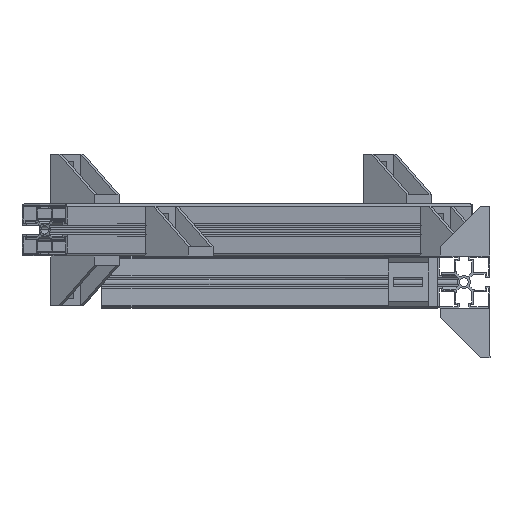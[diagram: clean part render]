
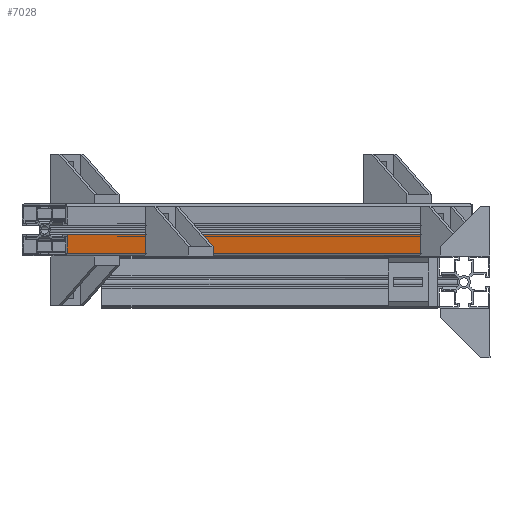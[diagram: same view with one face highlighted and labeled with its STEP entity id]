
A CAD part, left-side view. The second image highlights one B-rep face of the part: STEP entity #7028.
In plain terms, the highlighted planar face has unit normal (-0.5, -0.866, 0).
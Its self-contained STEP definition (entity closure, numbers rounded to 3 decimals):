
#573 = ORIENTED_EDGE ( 'NONE', *, *, #19659, .T. ) ;
#1615 = CARTESIAN_POINT ( 'NONE',  ( 266.159, -66.501, 18.349 ) ) ;
#1622 = PLANE ( 'NONE',  #11766 ) ;
#1624 = DIRECTION ( 'NONE',  ( 0.5, 0.866, 0. ) ) ;
#1625 = DIRECTION ( 'NONE',  ( -0.866, 0.5, 0. ) ) ;
#2837 = EDGE_LOOP ( 'NONE', ( #573, #20392, #20393, #20394 ) ) ;
#5247 = VERTEX_POINT ( 'NONE', #6389 ) ;
#5249 = VERTEX_POINT ( 'NONE', #6391 ) ;
#5351 = VERTEX_POINT ( 'NONE', #6493 ) ;
#5506 = VERTEX_POINT ( 'NONE', #5743 ) ;
#5743 = CARTESIAN_POINT ( 'NONE',  ( 266.159, -66.501, 2.5 ) ) ;
#6389 = CARTESIAN_POINT ( 'NONE',  ( -340.059, 283.499, 2.5 ) ) ;
#6391 = CARTESIAN_POINT ( 'NONE',  ( 266.159, -66.501, 18.349 ) ) ;
#6493 = CARTESIAN_POINT ( 'NONE',  ( -340.059, 283.499, 18.349 ) ) ;
#7028 = ADVANCED_FACE ( 'NONE', ( #14827 ), #1622, .F. ) ;
#8936 = DIRECTION ( 'NONE',  ( 0., 0., -1. ) ) ;
#8942 = CARTESIAN_POINT ( 'NONE',  ( 266.159, -66.501, 18.349 ) ) ;
#8946 = CARTESIAN_POINT ( 'NONE',  ( 266.159, -66.501, 2.5 ) ) ;
#8947 = DIRECTION ( 'NONE',  ( -0.866, 0.5, 0. ) ) ;
#8948 = CARTESIAN_POINT ( 'NONE',  ( -340.059, 283.499, 18.349 ) ) ;
#8950 = DIRECTION ( 'NONE',  ( 0., 0., -1. ) ) ;
#8952 = CARTESIAN_POINT ( 'NONE',  ( 266.159, -66.501, 18.349 ) ) ;
#8953 = DIRECTION ( 'NONE',  ( -0.866, 0.5, 0. ) ) ;
#11766 = AXIS2_PLACEMENT_3D ( 'NONE', #1615, #1624, #1625 ) ;
#14827 = FACE_OUTER_BOUND ( 'NONE', #2837, .T. ) ;
#17567 = LINE ( 'NONE', #8942, #17574 ) ;
#17573 = LINE ( 'NONE', #8946, #17576 ) ;
#17574 = VECTOR ( 'NONE', #8936, 1000. ) ;
#17575 = LINE ( 'NONE', #8948, #17578 ) ;
#17576 = VECTOR ( 'NONE', #8947, 1000. ) ;
#17578 = VECTOR ( 'NONE', #8950, 1000. ) ;
#17579 = LINE ( 'NONE', #8952, #17582 ) ;
#17582 = VECTOR ( 'NONE', #8953, 1000. ) ;
#19657 = EDGE_CURVE ( 'NONE', #5249, #5506, #17567, .T. ) ;
#19658 = EDGE_CURVE ( 'NONE', #5506, #5247, #17573, .T. ) ;
#19659 = EDGE_CURVE ( 'NONE', #5351, #5247, #17575, .T. ) ;
#19661 = EDGE_CURVE ( 'NONE', #5249, #5351, #17579, .T. ) ;
#20392 = ORIENTED_EDGE ( 'NONE', *, *, #19658, .F. ) ;
#20393 = ORIENTED_EDGE ( 'NONE', *, *, #19657, .F. ) ;
#20394 = ORIENTED_EDGE ( 'NONE', *, *, #19661, .T. ) ;
